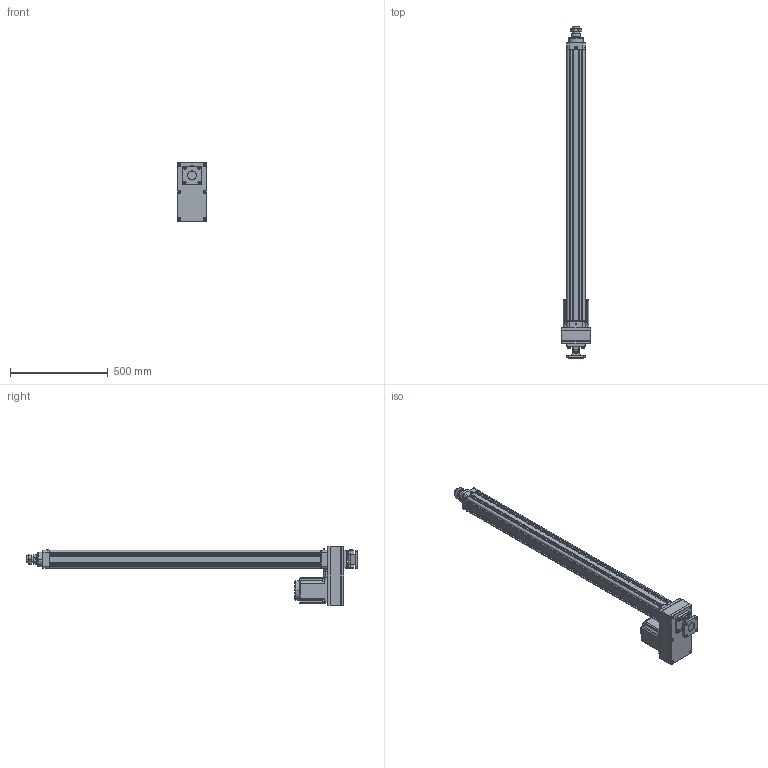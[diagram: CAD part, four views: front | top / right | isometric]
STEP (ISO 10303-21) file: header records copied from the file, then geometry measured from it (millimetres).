
FILE_DESCRIPTION((''),'2;1');
FILE_NAME('HE80-D-P_ASM','2020-05-14T',('ASUS20200'),(''),'CREO PARAMETRIC BY PTC INC, 2014190','CREO PARAMETRIC BY PTC INC, 2014190','');
FILE_SCHEMA(('CONFIG_CONTROL_DESIGN'));
Length unit declared in the file: millimetre
Products named in the file (30): HE80-D-P-001-X1; HE80-D-P-002-X1; HE80-D-P-003-X1; 30304J; YZ-M6X1; SLM-01; JDB506030; HE80-100-D-P-X1_ASM; HE80-P-010-X1-130N; 130ST-M10010; M10X25; HE80-P-009-X1-130N; HE80-P-013-X1-130N; TD-8; M8X35; M8X75; LM-M8-7-5; M10X1-25-40; LM-M10-30; LM-M10; HE80-D-P-005-X1; HE80-D-P-004-X1; HE80-D-P-008-X1; LGLM-M10-25; F-SE80CB; F-SE80CB-XD; F-SE80CB_ASM; F-SE80CA; M10X30; HE80-D-P_ASM
Assembly tree (53 placements, depth 3):
  HE80-D-P_ASM
    HE80-100-D-P-X1_ASM
      HE80-D-P-001-X1
      HE80-D-P-002-X1
      HE80-D-P-003-X1
      30304J  x2
      YZ-M6X1
      SLM-01
      JDB506030
    HE80-P-010-X1-130N
    130ST-M10010
    M10X25  x4
    HE80-P-009-X1-130N
    HE80-P-013-X1-130N
    TD-8  x4
    M8X35  x4
    M8X75  x6
    LM-M8-7-5  x4
    M10X1-25-40
    LM-M10-30
    LM-M10
    HE80-D-P-005-X1
    HE80-D-P-004-X1
    HE80-D-P-008-X1
    LGLM-M10-25  x4
    F-SE80CB_ASM
      F-SE80CB
      F-SE80CB-XD
    F-SE80CA
    M10X30  x4
Bounding box: 150 x 1696 x 300 mm (x, y, z)
Volume: 8431164.7 mm3; surface area: 2298766.7 mm2
Topology: 51 solids, 85 shells, 2231 faces, 5117 edges, 3113 vertices
Faces by surface type: plane 795, cone 668, cylinder 616, torus 122, sphere 26, bspline 4
Entity records: 49466 total; most frequent: CARTESIAN_POINT 9474, DIRECTION 8908, ORIENTED_EDGE 7604, EDGE_CURVE 3861, AXIS2_PLACEMENT_3D 3458, VERTEX_POINT 2348, VECTOR 1992, LINE 1992
